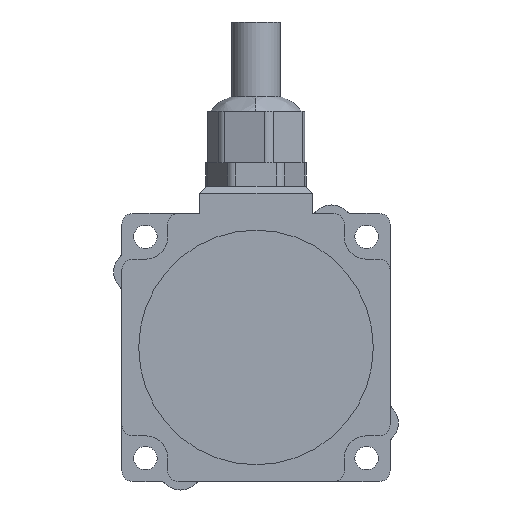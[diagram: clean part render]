
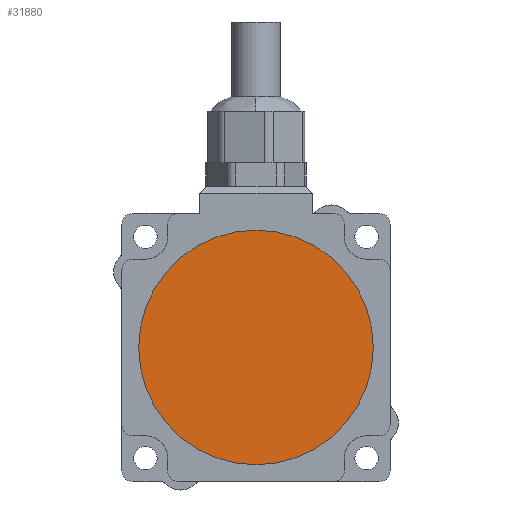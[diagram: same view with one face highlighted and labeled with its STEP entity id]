
A CAD part, front view. The second image highlights one B-rep face of the part: STEP entity #31880.
In plain terms, the highlighted planar face has unit normal (0, -1, 0).
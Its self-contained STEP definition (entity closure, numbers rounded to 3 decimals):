
#25205 = VERTEX_POINT('',#25206);
#25206 = CARTESIAN_POINT('',(0.,0.5,-25.));
#25215 = CYLINDRICAL_SURFACE('',#25216,25.);
#25216 = AXIS2_PLACEMENT_3D('',#25217,#25218,#25219);
#25217 = CARTESIAN_POINT('',(0.,0.5,0.));
#25218 = DIRECTION('',(0.,-1.,0.));
#25219 = DIRECTION('',(0.,0.,-1.));
#25249 = CYLINDRICAL_SURFACE('',#25250,25.);
#25250 = AXIS2_PLACEMENT_3D('',#25251,#25252,#25253);
#25251 = CARTESIAN_POINT('',(0.,0.5,0.));
#25252 = DIRECTION('',(0.,-1.,0.));
#25253 = DIRECTION('',(0.,0.,-1.));
#25335 = VERTEX_POINT('',#25336);
#25336 = CARTESIAN_POINT('',(0.,0.5,25.));
#25401 = EDGE_CURVE('',#25335,#25205,#25402,.T.);
#25402 = SURFACE_CURVE('',#25403,(#25408,#25437),.PCURVE_S1.);
#25403 = CIRCLE('',#25404,25.);
#25404 = AXIS2_PLACEMENT_3D('',#25405,#25406,#25407);
#25405 = CARTESIAN_POINT('',(0.,0.5,0.));
#25406 = DIRECTION('',(0.,-1.,0.));
#25407 = DIRECTION('',(0.,0.,-1.));
#25408 = PCURVE('',#25215,#25409);
#25409 = DEFINITIONAL_REPRESENTATION('',(#25410),#25436);
#25410 = B_SPLINE_CURVE_WITH_KNOTS('',3,(#25411,#25412,#25413,#25414,
    #25415,#25416,#25417,#25418,#25419,#25420,#25421,#25422,#25423,
    #25424,#25425,#25426,#25427,#25428,#25429,#25430,#25431,#25432,
    #25433,#25434,#25435),.UNSPECIFIED.,.F.,.F.,(4,1,1,1,1,1,1,1,1,1,1,1
    ,1,1,1,1,1,1,1,1,1,1,4),(3.142,3.284,3.427
    ,3.57,3.713,3.856,3.998,
    4.141,4.284,4.427,4.57,
    4.712,4.855,4.998,5.141,
    5.284,5.426,5.569,5.712,
    5.855,5.998,6.14,6.283),
  .QUASI_UNIFORM_KNOTS.);
#25411 = CARTESIAN_POINT('',(3.142,0.));
#25412 = CARTESIAN_POINT('',(3.189,0.));
#25413 = CARTESIAN_POINT('',(3.284,0.));
#25414 = CARTESIAN_POINT('',(3.427,0.));
#25415 = CARTESIAN_POINT('',(3.57,0.));
#25416 = CARTESIAN_POINT('',(3.713,0.));
#25417 = CARTESIAN_POINT('',(3.856,0.));
#25418 = CARTESIAN_POINT('',(3.998,0.));
#25419 = CARTESIAN_POINT('',(4.141,0.));
#25420 = CARTESIAN_POINT('',(4.284,0.));
#25421 = CARTESIAN_POINT('',(4.427,0.));
#25422 = CARTESIAN_POINT('',(4.57,0.));
#25423 = CARTESIAN_POINT('',(4.712,0.));
#25424 = CARTESIAN_POINT('',(4.855,0.));
#25425 = CARTESIAN_POINT('',(4.998,0.));
#25426 = CARTESIAN_POINT('',(5.141,0.));
#25427 = CARTESIAN_POINT('',(5.284,0.));
#25428 = CARTESIAN_POINT('',(5.426,0.));
#25429 = CARTESIAN_POINT('',(5.569,0.));
#25430 = CARTESIAN_POINT('',(5.712,0.));
#25431 = CARTESIAN_POINT('',(5.855,0.));
#25432 = CARTESIAN_POINT('',(5.998,0.));
#25433 = CARTESIAN_POINT('',(6.14,0.));
#25434 = CARTESIAN_POINT('',(6.236,0.));
#25435 = CARTESIAN_POINT('',(6.283,0.));
#25436 = ( GEOMETRIC_REPRESENTATION_CONTEXT(2) 
PARAMETRIC_REPRESENTATION_CONTEXT() REPRESENTATION_CONTEXT('2D SPACE',''
  ) );
#25437 = PCURVE('',#25438,#25443);
#25438 = PLANE('',#25439);
#25439 = AXIS2_PLACEMENT_3D('',#25440,#25441,#25442);
#25440 = CARTESIAN_POINT('',(0.,0.5,0.));
#25441 = DIRECTION('',(0.,-1.,0.));
#25442 = DIRECTION('',(0.,0.,-1.));
#25443 = DEFINITIONAL_REPRESENTATION('',(#25444),#25448);
#25444 = CIRCLE('',#25445,25.);
#25445 = AXIS2_PLACEMENT_2D('',#25446,#25447);
#25446 = CARTESIAN_POINT('',(0.,0.));
#25447 = DIRECTION('',(1.,0.));
#25448 = ( GEOMETRIC_REPRESENTATION_CONTEXT(2) 
PARAMETRIC_REPRESENTATION_CONTEXT() REPRESENTATION_CONTEXT('2D SPACE',''
  ) );
#31836 = EDGE_CURVE('',#25205,#25335,#31837,.T.);
#31837 = SURFACE_CURVE('',#31838,(#31843,#31872),.PCURVE_S1.);
#31838 = CIRCLE('',#31839,25.);
#31839 = AXIS2_PLACEMENT_3D('',#31840,#31841,#31842);
#31840 = CARTESIAN_POINT('',(0.,0.5,0.));
#31841 = DIRECTION('',(0.,-1.,0.));
#31842 = DIRECTION('',(0.,0.,-1.));
#31843 = PCURVE('',#25249,#31844);
#31844 = DEFINITIONAL_REPRESENTATION('',(#31845),#31871);
#31845 = B_SPLINE_CURVE_WITH_KNOTS('',3,(#31846,#31847,#31848,#31849,
    #31850,#31851,#31852,#31853,#31854,#31855,#31856,#31857,#31858,
    #31859,#31860,#31861,#31862,#31863,#31864,#31865,#31866,#31867,
    #31868,#31869,#31870),.UNSPECIFIED.,.F.,.F.,(4,1,1,1,1,1,1,1,1,1,1,1
    ,1,1,1,1,1,1,1,1,1,1,4),(0.,0.143,0.286,
    0.428,0.571,0.714,0.857,
    1.,1.142,1.285,1.428,
    1.571,1.714,1.856,1.999,
    2.142,2.285,2.428,2.57,
    2.713,2.856,2.999,3.142),
  .QUASI_UNIFORM_KNOTS.);
#31846 = CARTESIAN_POINT('',(0.,0.));
#31847 = CARTESIAN_POINT('',(0.048,0.));
#31848 = CARTESIAN_POINT('',(0.143,0.));
#31849 = CARTESIAN_POINT('',(0.286,0.));
#31850 = CARTESIAN_POINT('',(0.428,0.));
#31851 = CARTESIAN_POINT('',(0.571,0.));
#31852 = CARTESIAN_POINT('',(0.714,0.));
#31853 = CARTESIAN_POINT('',(0.857,0.));
#31854 = CARTESIAN_POINT('',(1.,0.));
#31855 = CARTESIAN_POINT('',(1.142,0.));
#31856 = CARTESIAN_POINT('',(1.285,0.));
#31857 = CARTESIAN_POINT('',(1.428,0.));
#31858 = CARTESIAN_POINT('',(1.571,0.));
#31859 = CARTESIAN_POINT('',(1.714,0.));
#31860 = CARTESIAN_POINT('',(1.856,0.));
#31861 = CARTESIAN_POINT('',(1.999,0.));
#31862 = CARTESIAN_POINT('',(2.142,0.));
#31863 = CARTESIAN_POINT('',(2.285,0.));
#31864 = CARTESIAN_POINT('',(2.428,0.));
#31865 = CARTESIAN_POINT('',(2.57,0.));
#31866 = CARTESIAN_POINT('',(2.713,0.));
#31867 = CARTESIAN_POINT('',(2.856,0.));
#31868 = CARTESIAN_POINT('',(2.999,0.));
#31869 = CARTESIAN_POINT('',(3.094,0.));
#31870 = CARTESIAN_POINT('',(3.142,0.));
#31871 = ( GEOMETRIC_REPRESENTATION_CONTEXT(2) 
PARAMETRIC_REPRESENTATION_CONTEXT() REPRESENTATION_CONTEXT('2D SPACE',''
  ) );
#31872 = PCURVE('',#25438,#31873);
#31873 = DEFINITIONAL_REPRESENTATION('',(#31874),#31878);
#31874 = CIRCLE('',#31875,25.);
#31875 = AXIS2_PLACEMENT_2D('',#31876,#31877);
#31876 = CARTESIAN_POINT('',(0.,0.));
#31877 = DIRECTION('',(1.,0.));
#31878 = ( GEOMETRIC_REPRESENTATION_CONTEXT(2) 
PARAMETRIC_REPRESENTATION_CONTEXT() REPRESENTATION_CONTEXT('2D SPACE',''
  ) );
#31880 = ADVANCED_FACE('',(#31881),#25438,.T.);
#31881 = FACE_BOUND('',#31882,.T.);
#31882 = EDGE_LOOP('',(#31883,#31884));
#31883 = ORIENTED_EDGE('',*,*,#31836,.T.);
#31884 = ORIENTED_EDGE('',*,*,#25401,.T.);
